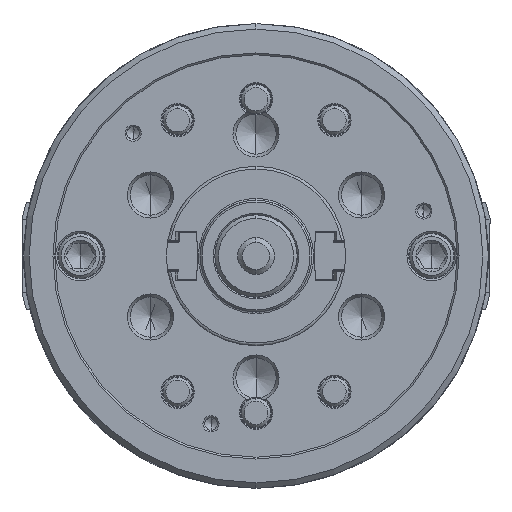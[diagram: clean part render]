
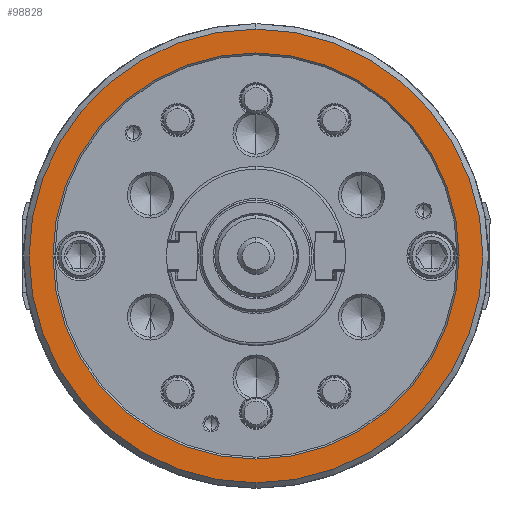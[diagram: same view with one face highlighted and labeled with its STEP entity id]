
A CAD part, left-side view. The second image highlights one B-rep face of the part: STEP entity #98828.
In plain terms, the highlighted planar face has unit normal (-1, 0, 0).
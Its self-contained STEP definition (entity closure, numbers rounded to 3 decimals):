
#2737 = CARTESIAN_POINT ( 'NONE',  ( -89., 0., 0. ) ) ;
#9654 = VERTEX_POINT ( 'NONE', #19433 ) ;
#11109 = CARTESIAN_POINT ( 'NONE',  ( -89., 0., 0. ) ) ;
#12348 = CARTESIAN_POINT ( 'NONE',  ( -89., 0., 0. ) ) ;
#14644 = EDGE_LOOP ( 'NONE', ( #87437, #79409 ) ) ;
#16443 = DIRECTION ( 'NONE',  ( 0., 0., -1. ) ) ;
#19433 = CARTESIAN_POINT ( 'NONE',  ( -89., 0., 111. ) ) ;
#24111 = CIRCLE ( 'NONE', #80988, 111. ) ;
#28645 = EDGE_LOOP ( 'NONE', ( #63668, #97913 ) ) ;
#30218 = DIRECTION ( 'NONE',  ( 1., 0., 0. ) ) ;
#33489 = CIRCLE ( 'NONE', #72508, 111. ) ;
#33772 = DIRECTION ( 'NONE',  ( 0., 0., -1. ) ) ;
#39830 = CARTESIAN_POINT ( 'NONE',  ( -89., -124., 0. ) ) ;
#40073 = AXIS2_PLACEMENT_3D ( 'NONE', #99869, #30218, #16443 ) ;
#40532 = VERTEX_POINT ( 'NONE', #52079 ) ;
#40634 = AXIS2_PLACEMENT_3D ( 'NONE', #12348, #66251, #67253 ) ;
#41529 = EDGE_CURVE ( 'NONE', #40532, #9654, #33489, .T. ) ;
#42106 = DIRECTION ( 'NONE',  ( 0., 0., -1. ) ) ;
#47951 = DIRECTION ( 'NONE',  ( 0., 0., -1. ) ) ;
#48967 = DIRECTION ( 'NONE',  ( 1., 0., 0. ) ) ;
#50212 = EDGE_CURVE ( 'NONE', #9654, #40532, #24111, .T. ) ;
#52079 = CARTESIAN_POINT ( 'NONE',  ( -89., 0., -111. ) ) ;
#52602 = FACE_OUTER_BOUND ( 'NONE', #14644, .T. ) ;
#56845 = DIRECTION ( 'NONE',  ( 1., 0., 0. ) ) ;
#61673 = CARTESIAN_POINT ( 'NONE',  ( -89., 0., 124. ) ) ;
#63668 = ORIENTED_EDGE ( 'NONE', *, *, #50212, .T. ) ;
#66251 = DIRECTION ( 'NONE',  ( 1., 0., 0. ) ) ;
#67253 = DIRECTION ( 'NONE',  ( 0., 0., -1. ) ) ;
#67390 = EDGE_CURVE ( 'NONE', #79290, #73290, #71672, .T. ) ;
#70882 = AXIS2_PLACEMENT_3D ( 'NONE', #39830, #48967, #47951 ) ;
#71672 = CIRCLE ( 'NONE', #40634, 124. ) ;
#72508 = AXIS2_PLACEMENT_3D ( 'NONE', #11109, #56845, #42106 ) ;
#73290 = VERTEX_POINT ( 'NONE', #61673 ) ;
#75355 = CARTESIAN_POINT ( 'NONE',  ( -89., 0., -124. ) ) ;
#77573 = FACE_BOUND ( 'NONE', #28645, .T. ) ;
#79290 = VERTEX_POINT ( 'NONE', #75355 ) ;
#79409 = ORIENTED_EDGE ( 'NONE', *, *, #98042, .F. ) ;
#80988 = AXIS2_PLACEMENT_3D ( 'NONE', #2737, #87666, #33772 ) ;
#83958 = CIRCLE ( 'NONE', #40073, 124. ) ;
#87437 = ORIENTED_EDGE ( 'NONE', *, *, #67390, .F. ) ;
#87666 = DIRECTION ( 'NONE',  ( 1., 0., 0. ) ) ;
#97913 = ORIENTED_EDGE ( 'NONE', *, *, #41529, .T. ) ;
#98042 = EDGE_CURVE ( 'NONE', #73290, #79290, #83958, .T. ) ;
#98828 = ADVANCED_FACE ( 'NONE', ( #52602, #77573 ), #100398, .F. ) ;
#99869 = CARTESIAN_POINT ( 'NONE',  ( -89., 0., 0. ) ) ;
#100398 = PLANE ( 'NONE',  #70882 ) ;
